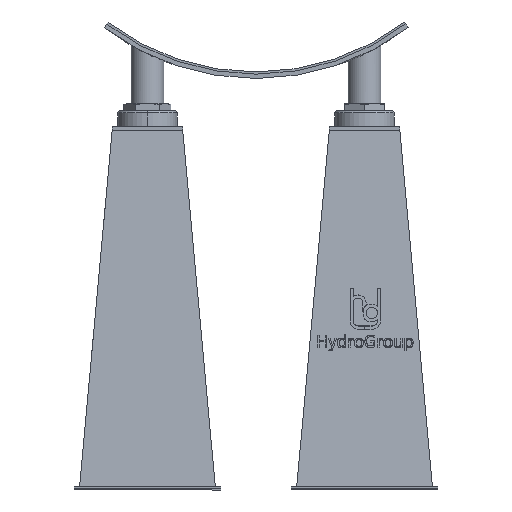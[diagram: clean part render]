
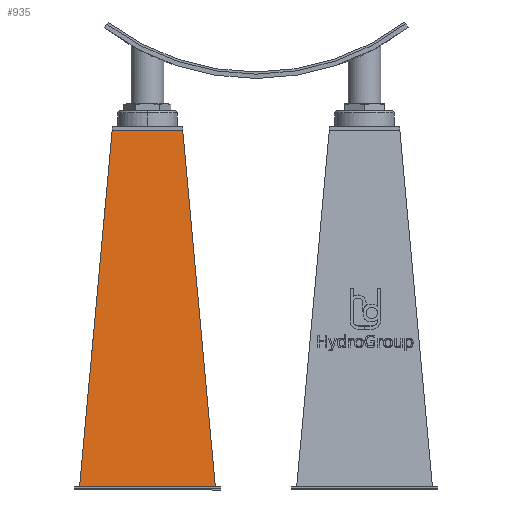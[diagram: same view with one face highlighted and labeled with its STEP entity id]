
A CAD part, front view. The second image highlights one B-rep face of the part: STEP entity #935.
In plain terms, the highlighted planar face has unit normal (0, -0.996, 0.091).
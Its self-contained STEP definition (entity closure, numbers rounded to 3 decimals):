
#935=ADVANCED_FACE('',(#2061),#2062,.T.);
#2061=FACE_OUTER_BOUND('',#3472,.T.);
#2062=PLANE('',#3473);
#3472=EDGE_LOOP('',(#6200,#6201,#6202,#6203));
#3473=AXIS2_PLACEMENT_3D('',#6204,#6205,#6206);
#6200=ORIENTED_EDGE('',*,*,#9140,.T.);
#6201=ORIENTED_EDGE('',*,*,#9157,.F.);
#6202=ORIENTED_EDGE('',*,*,#9127,.T.);
#6203=ORIENTED_EDGE('',*,*,#8887,.T.);
#6204=CARTESIAN_POINT('',(154.72,388.756,232.199));
#6205=DIRECTION('',(0.,-0.996,0.091));
#6206=DIRECTION('',(-1.0,0.,0.));
#8887=EDGE_CURVE('',#10607,#10605,#10608,.F.);
#9127=EDGE_CURVE('',#10921,#10607,#10922,.F.);
#9140=EDGE_CURVE('',#10605,#10943,#10946,.T.);
#9157=EDGE_CURVE('',#10921,#10943,#10967,.T.);
#10605=VERTEX_POINT('',#13369);
#10607=VERTEX_POINT('',#13372);
#10608=LINE('',#13373,#13374);
#10921=VERTEX_POINT('',#13944);
#10922=LINE('',#13945,#13946);
#10943=VERTEX_POINT('',#13977);
#10946=LINE('',#13981,#13982);
#10967=LINE('',#14013,#14014);
#13369=CARTESIAN_POINT('',(91.707,328.731,-425.074));
#13372=CARTESIAN_POINT('',(151.707,388.731,231.926));
#13373=CARTESIAN_POINT('',(152.265,389.289,238.036));
#13374=VECTOR('',#17242,1.);
#13944=CARTESIAN_POINT('',(281.732,388.731,231.926));
#13945=CARTESIAN_POINT('',(185.72,388.731,231.926));
#13946=VECTOR('',#17412,1.);
#13977=CARTESIAN_POINT('',(341.732,328.731,-425.074));
#13981=CARTESIAN_POINT('',(185.72,328.731,-425.074));
#13982=VECTOR('',#17424,1.);
#14013=CARTESIAN_POINT('',(281.174,389.289,238.036));
#14014=VECTOR('',#17435,1.);
#17242=DIRECTION('',(0.091,0.091,0.992));
#17412=DIRECTION('',(1.0,0.,0.));
#17424=DIRECTION('',(1.0,0.,0.));
#17435=DIRECTION('',(0.091,-0.091,-0.992));
